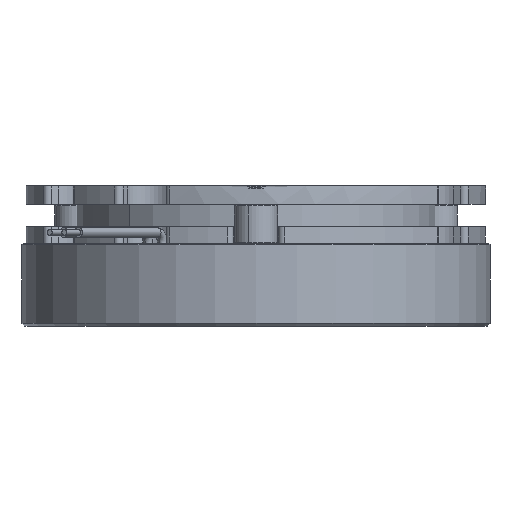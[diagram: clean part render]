
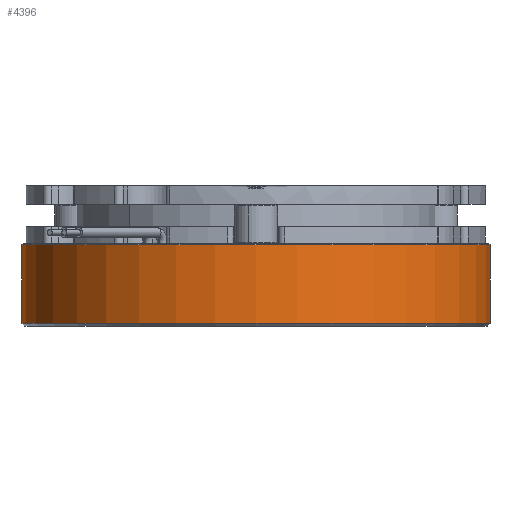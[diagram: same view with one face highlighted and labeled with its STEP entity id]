
A CAD part, front view. The second image highlights one B-rep face of the part: STEP entity #4396.
In plain terms, the highlighted cylindrical face has radius 41.75 mm (diameter 83.5 mm), a partial arc.
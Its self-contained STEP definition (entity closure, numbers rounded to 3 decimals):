
#2240 = EDGE_LOOP ( 'NONE', ( #7827, #7901, #7894, #7902 ) ) ;
#3075 = CIRCLE ( 'NONE', #12294, 41.75 ) ;
#3132 = CIRCLE ( 'NONE', #12354, 41.75 ) ;
#4129 = LINE ( 'NONE', #6269, #4131 ) ;
#4130 = LINE ( 'NONE', #6280, #4134 ) ;
#4131 = VECTOR ( 'NONE', #6268, 1000. ) ;
#4134 = VECTOR ( 'NONE', #6277, 1000. ) ;
#4396 = ADVANCED_FACE ( 'NONE', ( #5608 ), #5578, .T. ) ;
#5184 = AXIS2_PLACEMENT_3D ( 'NONE', #13744, #13745, #13753 ) ;
#5578 = CYLINDRICAL_SURFACE ( 'NONE', #5184, 41.75 ) ;
#5608 = FACE_OUTER_BOUND ( 'NONE', #2240, .T. ) ;
#6268 = DIRECTION ( 'NONE',  ( 0., 0., -1. ) ) ;
#6269 = CARTESIAN_POINT ( 'NONE',  ( -41.75, 0., 14.7 ) ) ;
#6277 = DIRECTION ( 'NONE',  ( 0., 0., -1. ) ) ;
#6280 = CARTESIAN_POINT ( 'NONE',  ( 41.75, 0., 14.7 ) ) ;
#7185 = VERTEX_POINT ( 'NONE', #11785 ) ;
#7827 = ORIENTED_EDGE ( 'NONE', *, *, #8613, .F. ) ;
#7894 = ORIENTED_EDGE ( 'NONE', *, *, #8611, .T. ) ;
#7901 = ORIENTED_EDGE ( 'NONE', *, *, #9010, .T. ) ;
#7902 = ORIENTED_EDGE ( 'NONE', *, *, #9032, .T. ) ;
#8611 = EDGE_CURVE ( 'NONE', #9811, #7185, #4129, .T. ) ;
#8613 = EDGE_CURVE ( 'NONE', #9927, #9799, #4130, .T. ) ;
#9010 = EDGE_CURVE ( 'NONE', #9927, #9811, #3075, .T. ) ;
#9032 = EDGE_CURVE ( 'NONE', #7185, #9799, #3132, .T. ) ;
#9799 = VERTEX_POINT ( 'NONE', #10722 ) ;
#9811 = VERTEX_POINT ( 'NONE', #10727 ) ;
#9927 = VERTEX_POINT ( 'NONE', #10760 ) ;
#10722 = CARTESIAN_POINT ( 'NONE',  ( 41.75, 0., 0.5 ) ) ;
#10727 = CARTESIAN_POINT ( 'NONE',  ( -41.75, 0., 14.5 ) ) ;
#10760 = CARTESIAN_POINT ( 'NONE',  ( 41.75, 0., 14.5 ) ) ;
#11170 = CARTESIAN_POINT ( 'NONE',  ( 0., 0., 14.5 ) ) ;
#11171 = DIRECTION ( 'NONE',  ( 0., 0., -1. ) ) ;
#11172 = DIRECTION ( 'NONE',  ( 1., 0., 0. ) ) ;
#11306 = CARTESIAN_POINT ( 'NONE',  ( 0., 0., 0.5 ) ) ;
#11307 = DIRECTION ( 'NONE',  ( 0., 0., 1. ) ) ;
#11308 = DIRECTION ( 'NONE',  ( 1., 0., 0. ) ) ;
#11785 = CARTESIAN_POINT ( 'NONE',  ( -41.75, 0., 0.5 ) ) ;
#12294 = AXIS2_PLACEMENT_3D ( 'NONE', #11170, #11171, #11172 ) ;
#12354 = AXIS2_PLACEMENT_3D ( 'NONE', #11306, #11307, #11308 ) ;
#13744 = CARTESIAN_POINT ( 'NONE',  ( 0., 0., 14.7 ) ) ;
#13745 = DIRECTION ( 'NONE',  ( 0., 0., -1. ) ) ;
#13753 = DIRECTION ( 'NONE',  ( -1., 0., 0. ) ) ;
